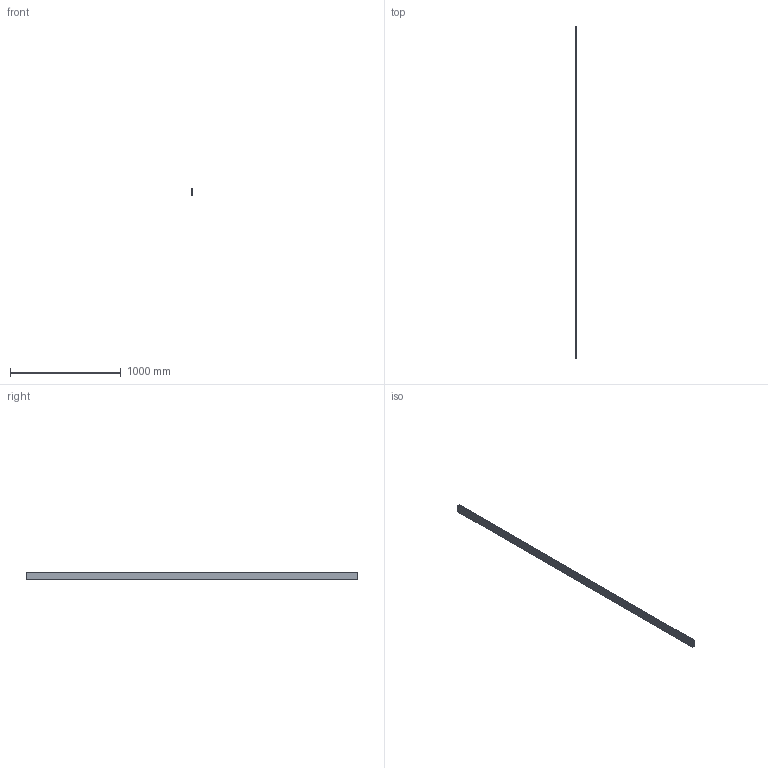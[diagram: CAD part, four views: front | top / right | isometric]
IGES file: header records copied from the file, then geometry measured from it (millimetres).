
Start section: Data from Parasolid IGES Translator 20.0.26, Copyright(c) 2006 Siemens P LM Software. All Rights Reserved.
Global section: file name: 9298806.igs; native system: By Siemens PLM Incorporated; preprocessor: XPlus GENERIC/IGES 20.0.26; author: Noname; organization: Noname; date: 20210826.182646; units: millimetre
Bounding box: 17.6 x 3000 x 72 mm (x, y, z)
Surface area: 1431898 mm2 (no closed solid volume)
Topology: 0 solids, 0 shells, 98 faces, 576 edges, 576 vertices
Faces by surface type: extrusion 98
